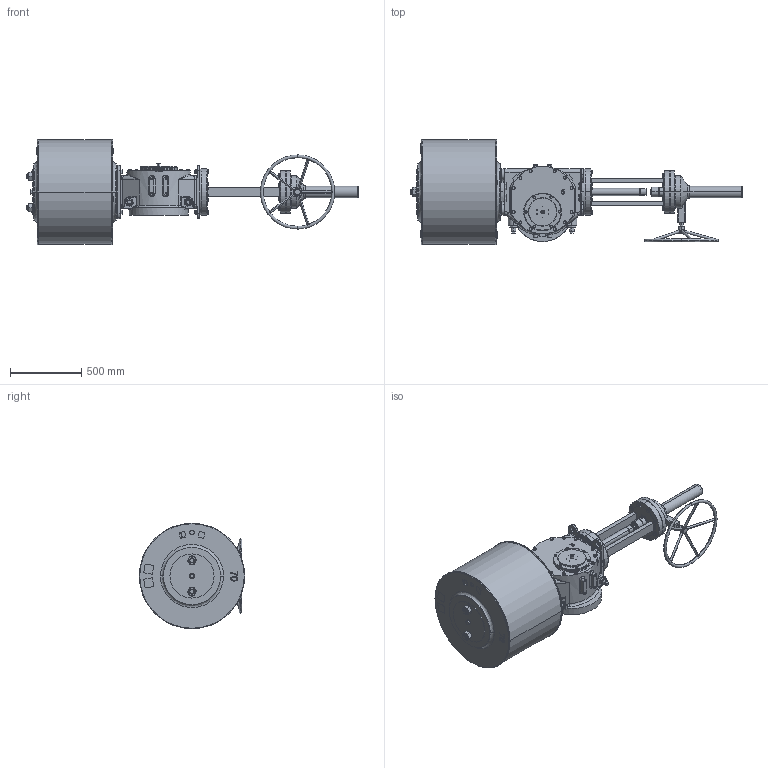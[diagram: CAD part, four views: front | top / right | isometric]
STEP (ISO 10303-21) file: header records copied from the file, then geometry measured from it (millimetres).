
FILE_DESCRIPTION (( 'STEP AP203' ), '1' );
FILE_NAME ('VTS5-700-MGD.STEP', '2023-01-01T09:53:17', ( '' ), ( '' ), 'SwSTEP 2.0', 'SolidWorks 2020', '' );
FILE_SCHEMA (( 'CONFIG_CONTROL_DESIGN' ));
Products named in the file (1): VTS5-700-MGD
Bounding box: 2328.5 x 739 x 739 mm (x, y, z)
Volume: 310868598.2 mm3; surface area: 5346671.9 mm2
Topology: 79 solids, 83 shells, 3544 faces, 8722 edges, 5460 vertices
Faces by surface type: plane 1527, cylinder 1072, cone 802, bspline 111, torus 32
Entity records: 123987 total; most frequent: CARTESIAN_POINT 41343, DIRECTION 17310, ORIENTED_EDGE 17224, EDGE_CURVE 8612, AXIS2_PLACEMENT_3D 6876, VERTEX_POINT 5460, EDGE_LOOP 3994, LINE 3558
